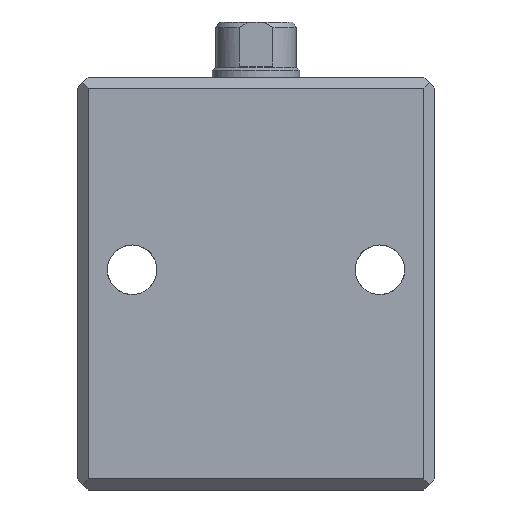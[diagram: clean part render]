
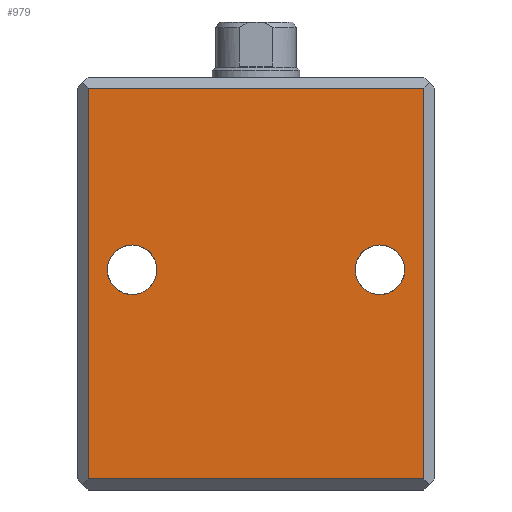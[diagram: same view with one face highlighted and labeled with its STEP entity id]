
A CAD part, front view. The second image highlights one B-rep face of the part: STEP entity #979.
In plain terms, the highlighted planar face has unit normal (0, -1, 0).
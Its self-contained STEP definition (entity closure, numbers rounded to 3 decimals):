
#1 = FACE_BOUND ( 'NONE', #1255, .T. ) ;
#19 = DIRECTION ( 'NONE',  ( 0., 0., 1. ) ) ;
#47 = EDGE_CURVE ( 'NONE', #1877, #124, #1564, .T. ) ;
#50 = CARTESIAN_POINT ( 'NONE',  ( -22.5, -22.5, 35.5 ) ) ;
#107 = DIRECTION ( 'NONE',  ( -1., 0., 0. ) ) ;
#124 = VERTEX_POINT ( 'NONE', #2074 ) ;
#179 = EDGE_CURVE ( 'NONE', #545, #1877, #790, .T. ) ;
#210 = CARTESIAN_POINT ( 'NONE',  ( 22.5, -22.5, 40. ) ) ;
#254 = DIRECTION ( 'NONE',  ( 0., -1., 0. ) ) ;
#269 = CARTESIAN_POINT ( 'NONE',  ( -22.5, -22.5, 44.5 ) ) ;
#369 = DIRECTION ( 'NONE',  ( 0., -1., 0. ) ) ;
#454 = DIRECTION ( 'NONE',  ( 0., 0., -1. ) ) ;
#484 = ORIENTED_EDGE ( 'NONE', *, *, #2753, .F. ) ;
#545 = VERTEX_POINT ( 'NONE', #1428 ) ;
#546 = VERTEX_POINT ( 'NONE', #1199 ) ;
#556 = CARTESIAN_POINT ( 'NONE',  ( -32.5, -22.5, 2. ) ) ;
#636 = CARTESIAN_POINT ( 'NONE',  ( 22.5, -22.5, 44.5 ) ) ;
#700 = DIRECTION ( 'NONE',  ( 0., -1., 0. ) ) ;
#709 = DIRECTION ( 'NONE',  ( 0., 1., 0. ) ) ;
#790 = LINE ( 'NONE', #556, #1714 ) ;
#836 = ORIENTED_EDGE ( 'NONE', *, *, #1126, .F. ) ;
#840 = ORIENTED_EDGE ( 'NONE', *, *, #179, .T. ) ;
#854 = ORIENTED_EDGE ( 'NONE', *, *, #2687, .F. ) ;
#857 = ORIENTED_EDGE ( 'NONE', *, *, #1753, .T. ) ;
#899 = CIRCLE ( 'NONE', #1916, 4.5 ) ;
#979 = ADVANCED_FACE ( 'NONE', ( #2199, #1, #1587 ), #2666, .F. ) ;
#1037 = VECTOR ( 'NONE', #1315, 1000. ) ;
#1098 = CARTESIAN_POINT ( 'NONE',  ( -22.5, -22.5, 40. ) ) ;
#1126 = EDGE_CURVE ( 'NONE', #1159, #2349, #2593, .T. ) ;
#1146 = DIRECTION ( 'NONE',  ( 0., 0., -1. ) ) ;
#1159 = VERTEX_POINT ( 'NONE', #269 ) ;
#1199 = CARTESIAN_POINT ( 'NONE',  ( 22.5, -22.5, 35.5 ) ) ;
#1255 = EDGE_LOOP ( 'NONE', ( #854, #2375 ) ) ;
#1275 = CARTESIAN_POINT ( 'NONE',  ( -30.5, -22.5, 75. ) ) ;
#1308 = AXIS2_PLACEMENT_3D ( 'NONE', #1468, #369, #1701 ) ;
#1315 = DIRECTION ( 'NONE',  ( 0., 0., -1. ) ) ;
#1348 = AXIS2_PLACEMENT_3D ( 'NONE', #1098, #1982, #454 ) ;
#1388 = AXIS2_PLACEMENT_3D ( 'NONE', #1994, #709, #19 ) ;
#1422 = VERTEX_POINT ( 'NONE', #636 ) ;
#1428 = CARTESIAN_POINT ( 'NONE',  ( -30.5, -22.5, 2. ) ) ;
#1468 = CARTESIAN_POINT ( 'NONE',  ( 22.5, -22.5, 40. ) ) ;
#1564 = LINE ( 'NONE', #2281, #1989 ) ;
#1587 = FACE_OUTER_BOUND ( 'NONE', #2063, .T. ) ;
#1605 = CARTESIAN_POINT ( 'NONE',  ( -32.5, -22.5, 73. ) ) ;
#1625 = ORIENTED_EDGE ( 'NONE', *, *, #47, .T. ) ;
#1701 = DIRECTION ( 'NONE',  ( 0., 0., -1. ) ) ;
#1714 = VECTOR ( 'NONE', #2763, 1000. ) ;
#1753 = EDGE_CURVE ( 'NONE', #124, #2296, #2075, .T. ) ;
#1762 = VECTOR ( 'NONE', #107, 1000. ) ;
#1820 = EDGE_LOOP ( 'NONE', ( #484, #836 ) ) ;
#1877 = VERTEX_POINT ( 'NONE', #2548 ) ;
#1916 = AXIS2_PLACEMENT_3D ( 'NONE', #210, #700, #2648 ) ;
#1923 = ORIENTED_EDGE ( 'NONE', *, *, #2608, .T. ) ;
#1941 = EDGE_CURVE ( 'NONE', #1422, #546, #2449, .T. ) ;
#1982 = DIRECTION ( 'NONE',  ( 0., -1., 0. ) ) ;
#1989 = VECTOR ( 'NONE', #2649, 1000. ) ;
#1994 = CARTESIAN_POINT ( 'NONE',  ( -32.5, -22.5, 75. ) ) ;
#2063 = EDGE_LOOP ( 'NONE', ( #857, #1923, #840, #1625 ) ) ;
#2074 = CARTESIAN_POINT ( 'NONE',  ( 30.5, -22.5, 73. ) ) ;
#2075 = LINE ( 'NONE', #1605, #1762 ) ;
#2152 = CIRCLE ( 'NONE', #2561, 4.5 ) ;
#2199 = FACE_BOUND ( 'NONE', #1820, .T. ) ;
#2281 = CARTESIAN_POINT ( 'NONE',  ( 30.5, -22.5, 75. ) ) ;
#2296 = VERTEX_POINT ( 'NONE', #2650 ) ;
#2349 = VERTEX_POINT ( 'NONE', #50 ) ;
#2375 = ORIENTED_EDGE ( 'NONE', *, *, #1941, .F. ) ;
#2425 = CARTESIAN_POINT ( 'NONE',  ( -22.5, -22.5, 40. ) ) ;
#2449 = CIRCLE ( 'NONE', #1308, 4.5 ) ;
#2548 = CARTESIAN_POINT ( 'NONE',  ( 30.5, -22.5, 2. ) ) ;
#2561 = AXIS2_PLACEMENT_3D ( 'NONE', #2425, #254, #1146 ) ;
#2593 = CIRCLE ( 'NONE', #1348, 4.5 ) ;
#2608 = EDGE_CURVE ( 'NONE', #2296, #545, #2800, .T. ) ;
#2648 = DIRECTION ( 'NONE',  ( 0., 0., -1. ) ) ;
#2649 = DIRECTION ( 'NONE',  ( 0., 0., 1. ) ) ;
#2650 = CARTESIAN_POINT ( 'NONE',  ( -30.5, -22.5, 73. ) ) ;
#2666 = PLANE ( 'NONE',  #1388 ) ;
#2687 = EDGE_CURVE ( 'NONE', #546, #1422, #899, .T. ) ;
#2753 = EDGE_CURVE ( 'NONE', #2349, #1159, #2152, .T. ) ;
#2763 = DIRECTION ( 'NONE',  ( 1., 0., 0. ) ) ;
#2800 = LINE ( 'NONE', #1275, #1037 ) ;
